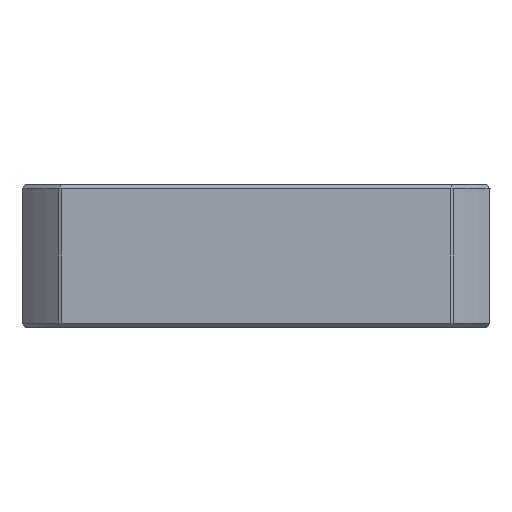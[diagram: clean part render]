
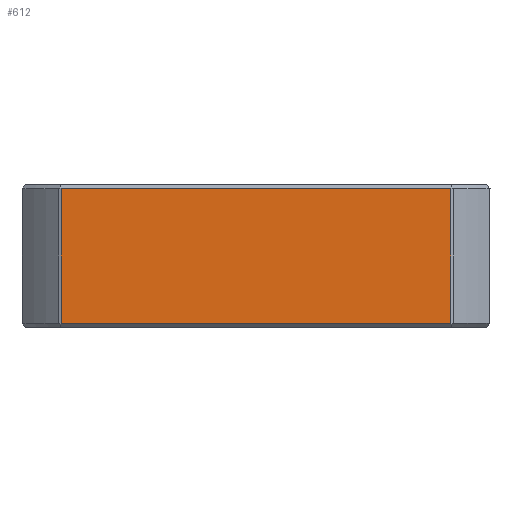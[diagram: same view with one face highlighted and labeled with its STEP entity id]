
A CAD part, left-side view. The second image highlights one B-rep face of the part: STEP entity #612.
In plain terms, the highlighted planar face has unit normal (-1, 0, 0).
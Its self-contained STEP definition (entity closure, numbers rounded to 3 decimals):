
#431 = EDGE_CURVE ( 'NONE', #448, #432, #2732, .T. ) ;
#432 = VERTEX_POINT ( 'NONE', #2728 ) ;
#439 = EDGE_CURVE ( 'NONE', #432, #497, #2773, .T. ) ;
#445 = VERTEX_POINT ( 'NONE', #2759 ) ;
#447 = EDGE_CURVE ( 'NONE', #445, #448, #2758, .T. ) ;
#448 = VERTEX_POINT ( 'NONE', #2811 ) ;
#497 = VERTEX_POINT ( 'NONE', #2894 ) ;
#587 = EDGE_LOOP ( 'NONE', ( #588, #589, #591, #592 ) ) ;
#588 = ORIENTED_EDGE ( 'NONE', *, *, #447, .F. ) ;
#589 = ORIENTED_EDGE ( 'NONE', *, *, #590, .T. ) ;
#590 = EDGE_CURVE ( 'NONE', #445, #497, #3022, .T. ) ;
#591 = ORIENTED_EDGE ( 'NONE', *, *, #439, .F. ) ;
#592 = ORIENTED_EDGE ( 'NONE', *, *, #431, .F. ) ;
#612 = ADVANCED_FACE ( 'NONE', ( #3051 ), #3050, .F. ) ;
#2728 = CARTESIAN_POINT ( 'NONE',  ( -29.5, -24.556, 17.5 ) ) ;
#2729 = DIRECTION ( 'NONE',  ( 0., -1., 0. ) ) ;
#2730 = VECTOR ( 'NONE', #2729, 1000. ) ;
#2731 = CARTESIAN_POINT ( 'NONE',  ( -29.5, 0., 17.5 ) ) ;
#2732 = LINE ( 'NONE', #2731, #2730 ) ;
#2755 = DIRECTION ( 'NONE',  ( 0., 0., 1. ) ) ;
#2756 = VECTOR ( 'NONE', #2755, 1000. ) ;
#2757 = CARTESIAN_POINT ( 'NONE',  ( -29.5, 24.556, 9. ) ) ;
#2758 = LINE ( 'NONE', #2757, #2756 ) ;
#2759 = CARTESIAN_POINT ( 'NONE',  ( -29.5, 24.556, 0.5 ) ) ;
#2770 = DIRECTION ( 'NONE',  ( 0., 0., -1. ) ) ;
#2771 = VECTOR ( 'NONE', #2770, 1000. ) ;
#2772 = CARTESIAN_POINT ( 'NONE',  ( -29.5, -24.556, 9. ) ) ;
#2773 = LINE ( 'NONE', #2772, #2771 ) ;
#2811 = CARTESIAN_POINT ( 'NONE',  ( -29.5, 24.556, 17.5 ) ) ;
#2894 = CARTESIAN_POINT ( 'NONE',  ( -29.5, -24.556, 0.5 ) ) ;
#3014 = DIRECTION ( 'NONE',  ( 0., -1., 0. ) ) ;
#3015 = VECTOR ( 'NONE', #3014, 1000. ) ;
#3016 = CARTESIAN_POINT ( 'NONE',  ( -29.5, 0., 0.5 ) ) ;
#3022 = LINE ( 'NONE', #3016, #3015 ) ;
#3046 = DIRECTION ( 'NONE',  ( 0., 1., 0. ) ) ;
#3047 = DIRECTION ( 'NONE',  ( 1., 0., 0. ) ) ;
#3048 = CARTESIAN_POINT ( 'NONE',  ( -29.5, -25.538, 0.16 ) ) ;
#3049 = AXIS2_PLACEMENT_3D ( 'NONE', #3048, #3047, #3046 ) ;
#3050 = PLANE ( 'NONE',  #3049 ) ;
#3051 = FACE_OUTER_BOUND ( 'NONE', #587, .T. ) ;
